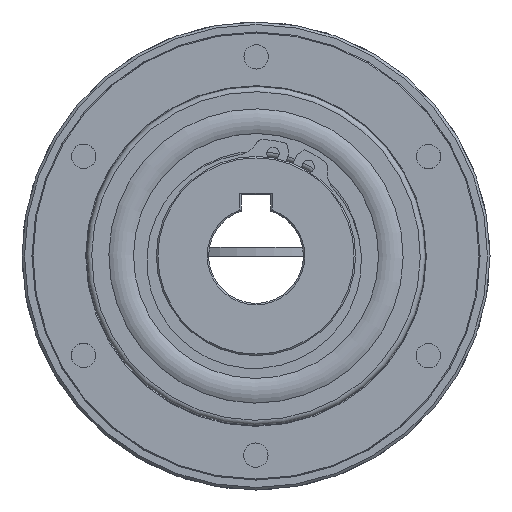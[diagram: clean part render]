
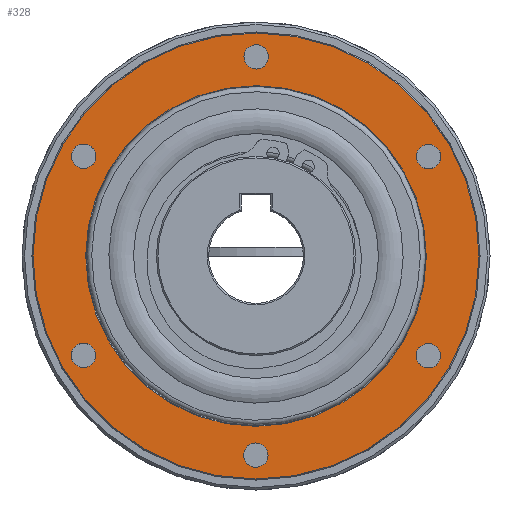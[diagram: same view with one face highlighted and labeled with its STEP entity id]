
A CAD part, left-side view. The second image highlights one B-rep face of the part: STEP entity #328.
In plain terms, the highlighted planar face has unit normal (-1, 0, 0).
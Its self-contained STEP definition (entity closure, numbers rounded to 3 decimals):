
#328 = ADVANCED_FACE( '', ( #621, #622, #623, #624, #625, #626, #627, #628 ), #629, .F. );
#621 = FACE_OUTER_BOUND( '', #968, .T. );
#622 = FACE_BOUND( '', #969, .T. );
#623 = FACE_BOUND( '', #970, .T. );
#624 = FACE_BOUND( '', #971, .T. );
#625 = FACE_BOUND( '', #972, .T. );
#626 = FACE_BOUND( '', #973, .T. );
#627 = FACE_BOUND( '', #974, .T. );
#628 = FACE_BOUND( '', #975, .T. );
#629 = PLANE( '', #976 );
#968 = EDGE_LOOP( '', ( #1540 ) );
#969 = EDGE_LOOP( '', ( #1541 ) );
#970 = EDGE_LOOP( '', ( #1542 ) );
#971 = EDGE_LOOP( '', ( #1543 ) );
#972 = EDGE_LOOP( '', ( #1544 ) );
#973 = EDGE_LOOP( '', ( #1545 ) );
#974 = EDGE_LOOP( '', ( #1546 ) );
#975 = EDGE_LOOP( '', ( #1547 ) );
#976 = AXIS2_PLACEMENT_3D( '', #1548, #1549, #1550 );
#1540 = ORIENTED_EDGE( '', *, *, #1863, .T. );
#1541 = ORIENTED_EDGE( '', *, *, #1864, .T. );
#1542 = ORIENTED_EDGE( '', *, *, #1865, .T. );
#1543 = ORIENTED_EDGE( '', *, *, #1858, .T. );
#1544 = ORIENTED_EDGE( '', *, *, #1860, .T. );
#1545 = ORIENTED_EDGE( '', *, *, #1866, .T. );
#1546 = ORIENTED_EDGE( '', *, *, #1867, .T. );
#1547 = ORIENTED_EDGE( '', *, *, #1868, .T. );
#1548 = CARTESIAN_POINT( '', ( -15.3, 45., 0. ) );
#1549 = DIRECTION( '', ( 1., 0., 0. ) );
#1550 = DIRECTION( '', ( 0., 1., 0. ) );
#1858 = EDGE_CURVE( '', #2115, #2115, #2116, .T. );
#1860 = EDGE_CURVE( '', #2119, #2119, #2120, .T. );
#1863 = EDGE_CURVE( '', #2125, #2125, #2126, .T. );
#1864 = EDGE_CURVE( '', #2127, #2127, #2128, .T. );
#1865 = EDGE_CURVE( '', #2129, #2129, #2130, .T. );
#1866 = EDGE_CURVE( '', #2131, #2131, #2132, .T. );
#1867 = EDGE_CURVE( '', #2133, #2133, #2134, .T. );
#1868 = EDGE_CURVE( '', #2135, #2135, #2136, .T. );
#2115 = VERTEX_POINT( '', #2785 );
#2116 = CIRCLE( '', #2786, 2.459 );
#2119 = VERTEX_POINT( '', #2789 );
#2120 = CIRCLE( '', #2790, 2.459 );
#2125 = VERTEX_POINT( '', #2795 );
#2126 = CIRCLE( '', #2796, 44.8 );
#2127 = VERTEX_POINT( '', #2797 );
#2128 = CIRCLE( '', #2798, 34.2 );
#2129 = VERTEX_POINT( '', #2799 );
#2130 = CIRCLE( '', #2800, 2.459 );
#2131 = VERTEX_POINT( '', #2801 );
#2132 = CIRCLE( '', #2802, 2.459 );
#2133 = VERTEX_POINT( '', #2803 );
#2134 = CIRCLE( '', #2804, 2.459 );
#2135 = VERTEX_POINT( '', #2805 );
#2136 = CIRCLE( '', #2806, 2.459 );
#2785 = CARTESIAN_POINT( '', ( -15.3, 36.77, -21.229 ) );
#2786 = AXIS2_PLACEMENT_3D( '', #3164, #3165, #3166 );
#2789 = CARTESIAN_POINT( '', ( -15.3, 0., -42.459 ) );
#2790 = AXIS2_PLACEMENT_3D( '', #3170, #3171, #3172 );
#2795 = CARTESIAN_POINT( '', ( -15.3, 0., -44.8 ) );
#2796 = AXIS2_PLACEMENT_3D( '', #3179, #3180, #3181 );
#2797 = CARTESIAN_POINT( '', ( -15.3, 0., -34.2 ) );
#2798 = AXIS2_PLACEMENT_3D( '', #3182, #3183, #3184 );
#2799 = CARTESIAN_POINT( '', ( -15.3, 36.77, 21.229 ) );
#2800 = AXIS2_PLACEMENT_3D( '', #3185, #3186, #3187 );
#2801 = CARTESIAN_POINT( '', ( -15.3, -36.77, -21.229 ) );
#2802 = AXIS2_PLACEMENT_3D( '', #3188, #3189, #3190 );
#2803 = CARTESIAN_POINT( '', ( -15.3, -36.77, 21.229 ) );
#2804 = AXIS2_PLACEMENT_3D( '', #3191, #3192, #3193 );
#2805 = CARTESIAN_POINT( '', ( -15.3, 0., 42.459 ) );
#2806 = AXIS2_PLACEMENT_3D( '', #3194, #3195, #3196 );
#3164 = CARTESIAN_POINT( '', ( -15.3, 34.641, -20. ) );
#3165 = DIRECTION( '', ( 1., 0., 0. ) );
#3166 = DIRECTION( '', ( 0., 0.866, -0.5 ) );
#3170 = CARTESIAN_POINT( '', ( -15.3, 0., -40. ) );
#3171 = DIRECTION( '', ( 1., 0., 0. ) );
#3172 = DIRECTION( '', ( 0., 0., -1. ) );
#3179 = CARTESIAN_POINT( '', ( -15.3, 0., 0. ) );
#3180 = DIRECTION( '', ( -1., 0., 0. ) );
#3181 = DIRECTION( '', ( 0., 0., -1. ) );
#3182 = CARTESIAN_POINT( '', ( -15.3, 0., 0. ) );
#3183 = DIRECTION( '', ( 1., 0., 0. ) );
#3184 = DIRECTION( '', ( 0., 0., -1. ) );
#3185 = CARTESIAN_POINT( '', ( -15.3, 34.641, 20. ) );
#3186 = DIRECTION( '', ( 1., 0., 0. ) );
#3187 = DIRECTION( '', ( 0., 0.866, 0.5 ) );
#3188 = CARTESIAN_POINT( '', ( -15.3, -34.641, -20. ) );
#3189 = DIRECTION( '', ( 1., 0., 0. ) );
#3190 = DIRECTION( '', ( 0., -0.866, -0.5 ) );
#3191 = CARTESIAN_POINT( '', ( -15.3, -34.641, 20. ) );
#3192 = DIRECTION( '', ( 1., 0., 0. ) );
#3193 = DIRECTION( '', ( 0., -0.866, 0.5 ) );
#3194 = CARTESIAN_POINT( '', ( -15.3, 0., 40. ) );
#3195 = DIRECTION( '', ( 1., 0., 0. ) );
#3196 = DIRECTION( '', ( 0., 0., 1. ) );
